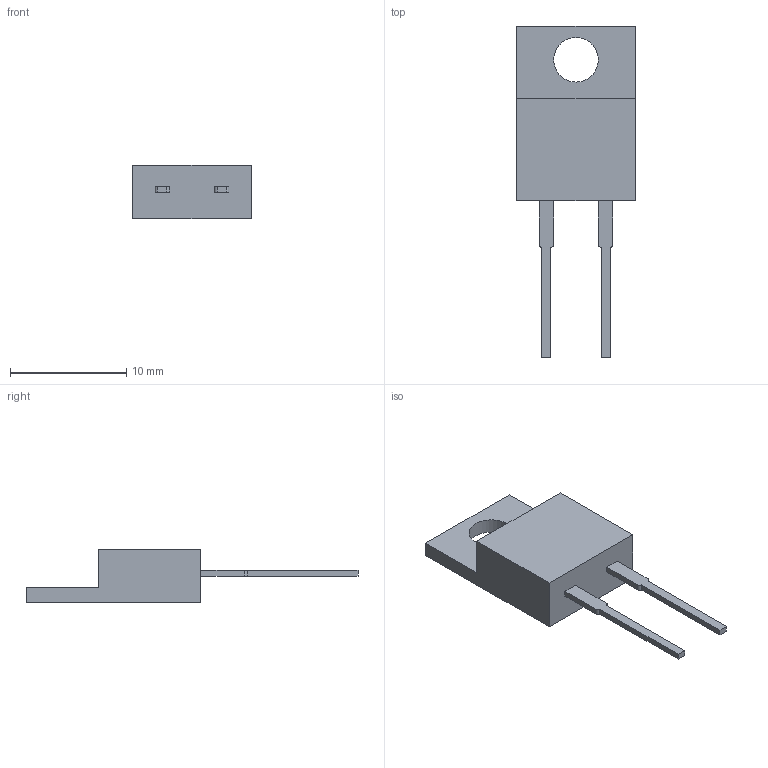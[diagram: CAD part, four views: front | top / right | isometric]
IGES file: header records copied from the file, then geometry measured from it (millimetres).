
Start section:  PTC IGES file: c-7-2176430-6-ba-3d.igs
Global section: file name: c-7-2176430-6-ba-3d.igs; native system: Creo Parametric by PTC Inc.; preprocessor: 2019030; author: workeradm; organization: Unknown; units: millimetre
Bounding box: 10.16 x 28.5 x 4.6 mm (x, y, z)
Surface area: 564.9 mm2 (no closed solid volume)
Topology: 0 solids, 0 shells, 28 faces, 144 edges, 144 vertices
Faces by surface type: bspline 22, revolution 6
